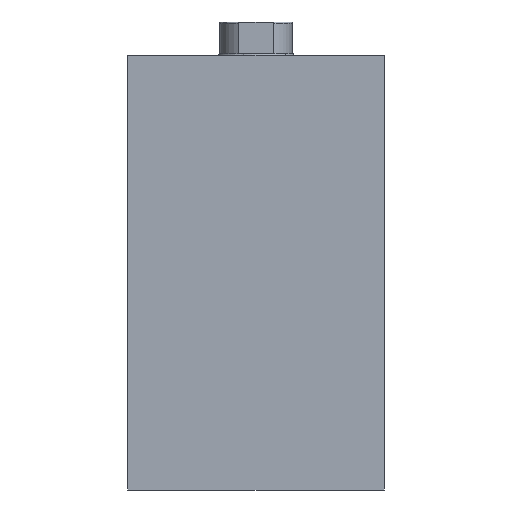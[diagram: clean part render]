
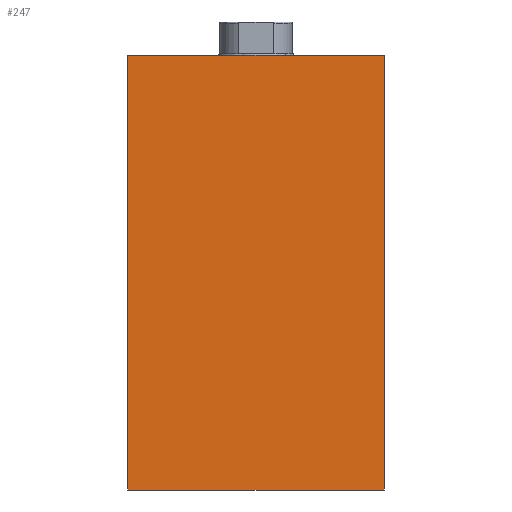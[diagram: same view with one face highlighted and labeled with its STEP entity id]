
A CAD part, left-side view. The second image highlights one B-rep face of the part: STEP entity #247.
In plain terms, the highlighted planar face has unit normal (-1, 0, 0) as drawn and (0, 0, -1) by its records, which use the part's own axes.
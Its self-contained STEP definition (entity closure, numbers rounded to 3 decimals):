
#247 = ADVANCED_FACE( '', ( #338 ), #339, .F. );
#338 = FACE_OUTER_BOUND( '', #554, .T. );
#339 = PLANE( '', #555 );
#554 = EDGE_LOOP( '', ( #789, #790, #791, #792 ) );
#555 = AXIS2_PLACEMENT_3D( '', #793, #794, #795 );
#789 = ORIENTED_EDGE( '', *, *, #1166, .T. );
#790 = ORIENTED_EDGE( '', *, *, #1183, .F. );
#791 = ORIENTED_EDGE( '', *, *, #1178, .F. );
#792 = ORIENTED_EDGE( '', *, *, #1182, .T. );
#793 = CARTESIAN_POINT( '', ( 144., -42.5, -31.5 ) );
#794 = DIRECTION( '', ( 0., 0., 1. ) );
#795 = DIRECTION( '', ( 1., 0., 0. ) );
#1166 = EDGE_CURVE( '', #1267, #1265, #1268, .T. );
#1178 = EDGE_CURVE( '', #1287, #1289, #1290, .T. );
#1182 = EDGE_CURVE( '', #1287, #1267, #1296, .T. );
#1183 = EDGE_CURVE( '', #1289, #1265, #1297, .T. );
#1265 = VERTEX_POINT( '', #1510 );
#1267 = VERTEX_POINT( '', #1513 );
#1268 = LINE( '', #1514, #1515 );
#1287 = VERTEX_POINT( '', #1706 );
#1289 = VERTEX_POINT( '', #1709 );
#1290 = LINE( '', #1710, #1711 );
#1296 = B_SPLINE_CURVE_WITH_KNOTS( '', 1, ( #1784, #1785 ), .UNSPECIFIED., .F., .F., ( 2, 2 ), ( 0., 1. ), .UNSPECIFIED. );
#1297 = B_SPLINE_CURVE_WITH_KNOTS( '', 1, ( #1786, #1787 ), .UNSPECIFIED., .F., .F., ( 2, 2 ), ( 0., 1. ), .UNSPECIFIED. );
#1510 = CARTESIAN_POINT( '', ( 0., 42.5, -31.5 ) );
#1513 = CARTESIAN_POINT( '', ( 0., -42.5, -31.5 ) );
#1514 = CARTESIAN_POINT( '', ( 0., -42.5, -31.5 ) );
#1515 = VECTOR( '', #4022, 1000. );
#1706 = CARTESIAN_POINT( '', ( 144., -42.5, -31.5 ) );
#1709 = CARTESIAN_POINT( '', ( 144., 42.5, -31.5 ) );
#1710 = CARTESIAN_POINT( '', ( 144., -42.5, -31.5 ) );
#1711 = VECTOR( '', #4029, 1000. );
#1784 = CARTESIAN_POINT( '', ( 144., -42.5, -31.5 ) );
#1785 = CARTESIAN_POINT( '', ( 0., -42.5, -31.5 ) );
#1786 = CARTESIAN_POINT( '', ( 144., 42.5, -31.5 ) );
#1787 = CARTESIAN_POINT( '', ( 0., 42.5, -31.5 ) );
#4022 = DIRECTION( '', ( 0., 1., 0. ) );
#4029 = DIRECTION( '', ( 0., 1., 0. ) );
